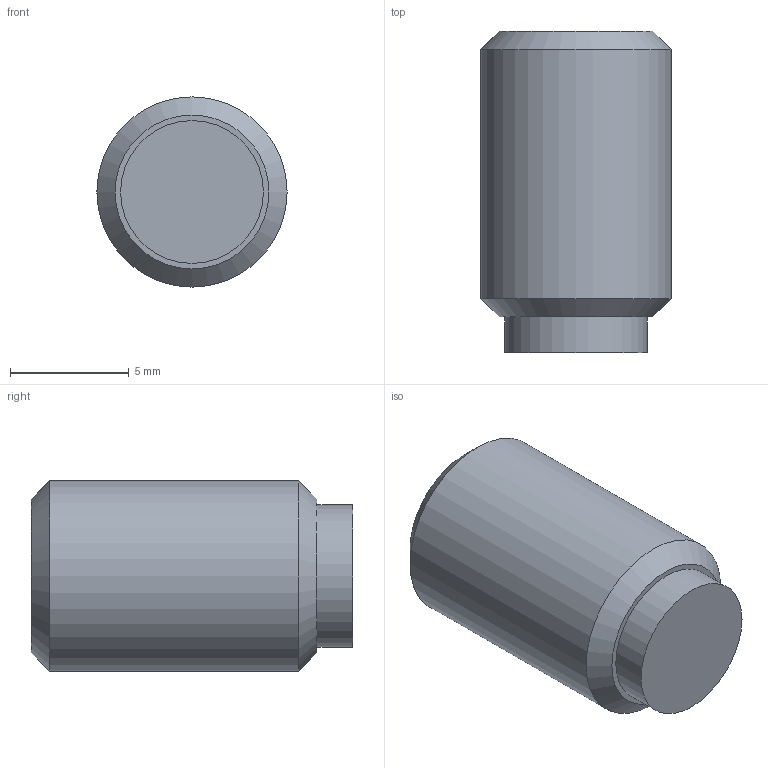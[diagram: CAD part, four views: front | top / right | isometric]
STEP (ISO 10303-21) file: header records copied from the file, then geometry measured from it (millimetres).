
FILE_DESCRIPTION( ( 'STEP AP203' ), '1' );
FILE_NAME( 'C:/Temp/Ganter_Step_05_03_2020/data/3_2/gn913_3/Grub screw GN 913.3-M8-12-MS.stp', '2020-03-13T05:35:50', ( 'License CC BY-ND 4.0' ), ( 'CADENAS' ), ' ', 'PARTsolutions', ' ' );
FILE_SCHEMA( ( 'CONFIG_CONTROL_DESIGN' ) );
Length unit declared in the file: millimetre
Products named in the file (1): _Grub screw GN 913.3-M8-12-MS
Bounding box: 8 x 13.5 x 8 mm (x, y, z)
Volume: 562.5 mm3; surface area: 475.6 mm2
Topology: 1 solids, 1 shells, 14 faces, 28 edges, 18 vertices
Faces by surface type: plane 10, cylinder 2, cone 2
Full cylindrical faces by diameter (mm): 6 x1, 8 x1
Entity records: 386 total; most frequent: DIRECTION 60, CARTESIAN_POINT 57, ORIENTED_EDGE 48, EDGE_CURVE 24, AXIS2_PLACEMENT_3D 21, EDGE_LOOP 20, VERTEX_POINT 18, LINE 18
